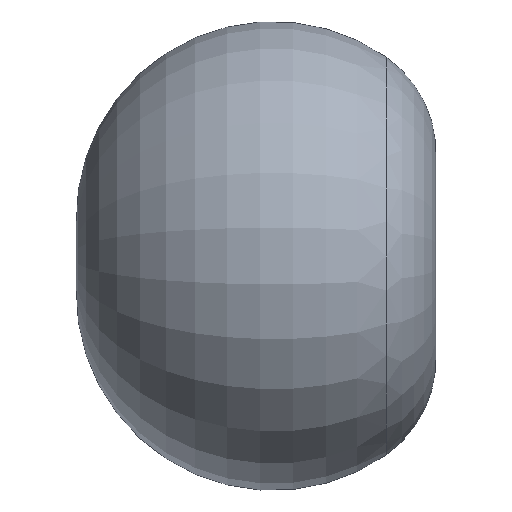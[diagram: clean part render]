
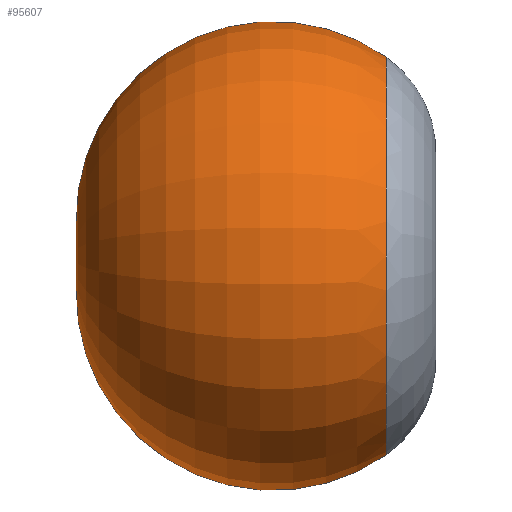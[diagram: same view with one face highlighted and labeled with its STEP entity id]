
A CAD part, left-side view. The second image highlights one B-rep face of the part: STEP entity #95607.
In plain terms, the highlighted toroidal (fillet/blend) face has major radius 400 mm and minor radius 2103.36 mm.
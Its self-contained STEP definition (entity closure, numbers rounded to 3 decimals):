
#1389 = DIRECTION ( 'NONE',  ( 0., 0., -1. ) ) ;
#1390 = DIRECTION ( 'NONE',  ( 0., -1., 0. ) ) ;
#1391 = AXIS2_PLACEMENT_3D ( 'NONE', #1397, #1390, #1389 ) ;
#1392 = CIRCLE ( 'NONE', #1391, 2122.974 ) ;
#1393 = DIRECTION ( 'NONE',  ( 0., 0., -1. ) ) ;
#1394 = DIRECTION ( 'NONE',  ( 0., -1., 0. ) ) ;
#1395 = CARTESIAN_POINT ( 'NONE',  ( 0., 550., 0. ) ) ;
#1396 = AXIS2_PLACEMENT_3D ( 'NONE', #1395, #1394, #1393 ) ;
#1397 = CARTESIAN_POINT ( 'NONE',  ( 0., -656.439, 0. ) ) ;
#1398 = TOROIDAL_SURFACE ( 'NONE', #1396, 400., 2103.362 ) ;
#1399 = FACE_OUTER_BOUND ( 'NONE', #95608, .T. ) ;
#1426 = CARTESIAN_POINT ( 'NONE',  ( 0., -656.439, 2122.974 ) ) ;
#1427 = CARTESIAN_POINT ( 'NONE',  ( 0., -656.439, -2122.974 ) ) ;
#1514 = DIRECTION ( 'NONE',  ( 0., 0., -1. ) ) ;
#1515 = DIRECTION ( 'NONE',  ( 1., 0., 0. ) ) ;
#1516 = CARTESIAN_POINT ( 'NONE',  ( 0., 550., 400. ) ) ;
#1517 = AXIS2_PLACEMENT_3D ( 'NONE', #1516, #1515, #1514 ) ;
#1518 = CIRCLE ( 'NONE', #1517, 2103.362 ) ;
#1520 = CARTESIAN_POINT ( 'NONE',  ( 0., 2614.978, 0. ) ) ;
#1521 = DIRECTION ( 'NONE',  ( 0., 0., 1. ) ) ;
#1522 = DIRECTION ( 'NONE',  ( -1., 0., 0. ) ) ;
#1523 = CARTESIAN_POINT ( 'NONE',  ( 0., 550., -400. ) ) ;
#1524 = AXIS2_PLACEMENT_3D ( 'NONE', #1523, #1522, #1521 ) ;
#1525 = CIRCLE ( 'NONE', #1524, 2103.362 ) ;
#95607 = ADVANCED_FACE ( 'NONE', ( #1399 ), #1398, .T. ) ;
#95608 = EDGE_LOOP ( 'NONE', ( #95610, #95612, #95614 ) ) ;
#95610 = ORIENTED_EDGE ( 'NONE', *, *, #95728, .F. ) ;
#95612 = ORIENTED_EDGE ( 'NONE', *, *, #95725, .T. ) ;
#95614 = ORIENTED_EDGE ( 'NONE', *, *, #95616, .F. ) ;
#95616 = EDGE_CURVE ( 'NONE', #95634, #95633, #1392, .T. ) ;
#95633 = VERTEX_POINT ( 'NONE', #1427 ) ;
#95634 = VERTEX_POINT ( 'NONE', #1426 ) ;
#95725 = EDGE_CURVE ( 'NONE', #95726, #95633, #1525, .T. ) ;
#95726 = VERTEX_POINT ( 'NONE', #1520 ) ;
#95728 = EDGE_CURVE ( 'NONE', #95726, #95634, #1518, .T. ) ;
